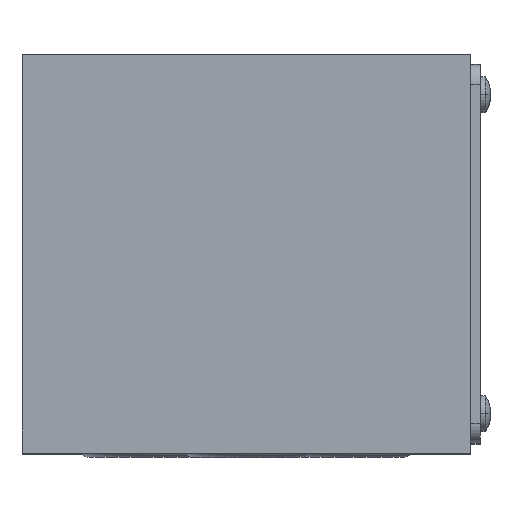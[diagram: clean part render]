
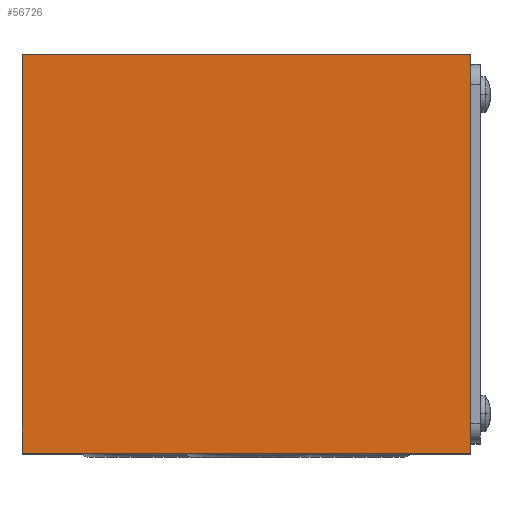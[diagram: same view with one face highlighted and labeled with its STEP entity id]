
A CAD part, top view. The second image highlights one B-rep face of the part: STEP entity #56726.
In plain terms, the highlighted planar face has unit normal (0, 0, 1) as drawn and (0, 0, -1) by its records, which use the part's own axes.
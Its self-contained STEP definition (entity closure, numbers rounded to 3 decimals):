
#4882 = LINE ( 'NONE', #67350, #42187 ) ;
#6364 = VERTEX_POINT ( 'NONE', #23948 ) ;
#14950 = LINE ( 'NONE', #83418, #102876 ) ;
#20801 = VECTOR ( 'NONE', #89001, 1000. ) ;
#23651 = CARTESIAN_POINT ( 'NONE',  ( -22.5, 20., -32. ) ) ;
#23948 = CARTESIAN_POINT ( 'NONE',  ( 22.5, 20., -32. ) ) ;
#24987 = DIRECTION ( 'NONE',  ( 1., 0., 0. ) ) ;
#26666 = LINE ( 'NONE', #48302, #74514 ) ;
#32478 = DIRECTION ( 'NONE',  ( 0., 1., 0. ) ) ;
#33350 = EDGE_CURVE ( 'NONE', #110237, #54802, #26666, .T. ) ;
#38135 = CARTESIAN_POINT ( 'NONE',  ( -22.5, 20., -32. ) ) ;
#42187 = VECTOR ( 'NONE', #24987, 1000. ) ;
#42222 = CARTESIAN_POINT ( 'NONE',  ( -22.5, -20., -32. ) ) ;
#45873 = EDGE_CURVE ( 'NONE', #54802, #78837, #4882, .T. ) ;
#46216 = AXIS2_PLACEMENT_3D ( 'NONE', #42222, #50768, #110314 ) ;
#48302 = CARTESIAN_POINT ( 'NONE',  ( -22.5, 20., -32. ) ) ;
#50768 = DIRECTION ( 'NONE',  ( 0., 0., 1. ) ) ;
#54802 = VERTEX_POINT ( 'NONE', #81888 ) ;
#55177 = ORIENTED_EDGE ( 'NONE', *, *, #65453, .F. ) ;
#56726 = ADVANCED_FACE ( 'NONE', ( #95006 ), #93123, .F. ) ;
#65453 = EDGE_CURVE ( 'NONE', #6364, #110237, #108775, .T. ) ;
#67350 = CARTESIAN_POINT ( 'NONE',  ( -22.5, -20., -32. ) ) ;
#74514 = VECTOR ( 'NONE', #82051, 1000. ) ;
#78837 = VERTEX_POINT ( 'NONE', #89346 ) ;
#81888 = CARTESIAN_POINT ( 'NONE',  ( -22.5, -20., -32. ) ) ;
#82051 = DIRECTION ( 'NONE',  ( 0., -1., 0. ) ) ;
#83418 = CARTESIAN_POINT ( 'NONE',  ( 22.5, 20., -32. ) ) ;
#88175 = ORIENTED_EDGE ( 'NONE', *, *, #45873, .F. ) ;
#89001 = DIRECTION ( 'NONE',  ( -1., 0., 0. ) ) ;
#89346 = CARTESIAN_POINT ( 'NONE',  ( 22.5, -20., -32. ) ) ;
#91254 = EDGE_LOOP ( 'NONE', ( #107210, #55177, #110416, #88175 ) ) ;
#93123 = PLANE ( 'NONE',  #46216 ) ;
#95006 = FACE_OUTER_BOUND ( 'NONE', #91254, .T. ) ;
#102876 = VECTOR ( 'NONE', #32478, 1000. ) ;
#106519 = EDGE_CURVE ( 'NONE', #78837, #6364, #14950, .T. ) ;
#107210 = ORIENTED_EDGE ( 'NONE', *, *, #33350, .F. ) ;
#108775 = LINE ( 'NONE', #38135, #20801 ) ;
#110237 = VERTEX_POINT ( 'NONE', #23651 ) ;
#110314 = DIRECTION ( 'NONE',  ( 1., 0., 0. ) ) ;
#110416 = ORIENTED_EDGE ( 'NONE', *, *, #106519, .F. ) ;
